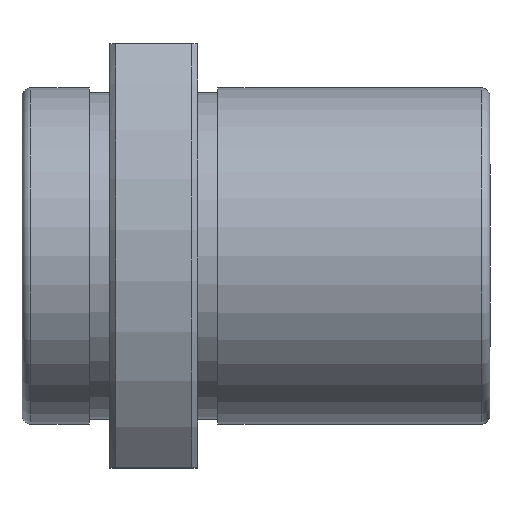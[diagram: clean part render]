
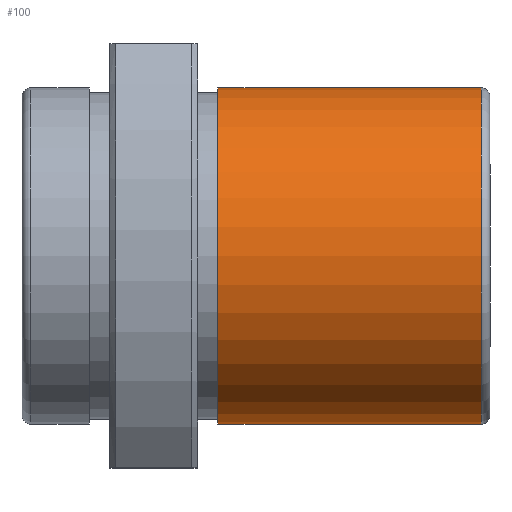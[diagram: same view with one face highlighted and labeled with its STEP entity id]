
A CAD part, top view. The second image highlights one B-rep face of the part: STEP entity #100.
In plain terms, the highlighted cylindrical face has radius 11.5 mm (diameter 23 mm), a full revolution.
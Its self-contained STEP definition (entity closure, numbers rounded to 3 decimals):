
#100=ADVANCED_FACE('',(#175,#176),#177,.T.);
#175=FACE_OUTER_BOUND('',#252,.T.);
#176=FACE_OUTER_BOUND('',#253,.T.);
#177=CYLINDRICAL_SURFACE('',#254,11.5);
#252=EDGE_LOOP('',(#410));
#253=EDGE_LOOP('',(#411));
#254=AXIS2_PLACEMENT_3D('',#412,#413,#414);
#410=ORIENTED_EDGE('',*,*,#469,.T.);
#411=ORIENTED_EDGE('',*,*,#426,.T.);
#412=CARTESIAN_POINT('',(20.0,0.,0.));
#413=DIRECTION('',(1.0,-0.0,0.));
#414=DIRECTION('',(0.0,-1.0,0.0));
#426=EDGE_CURVE('',#470,#470,#471,.F.);
#469=EDGE_CURVE('',#548,#548,#549,.T.);
#470=VERTEX_POINT('',#550);
#471=CIRCLE('',#551,11.5);
#548=VERTEX_POINT('',#660);
#549=CIRCLE('',#661,11.5);
#550=CARTESIAN_POINT('',(19.4,0.,-11.5));
#551=AXIS2_PLACEMENT_3D('',#662,#663,#664);
#660=CARTESIAN_POINT('',(1.4,0.,-11.5));
#661=AXIS2_PLACEMENT_3D('',#751,#752,#753);
#662=CARTESIAN_POINT('',(19.4,0.,0.));
#663=DIRECTION('',(1.0,0.0,0.));
#664=DIRECTION('',(0.,0.0,-1.0));
#751=CARTESIAN_POINT('',(1.4,0.,0.));
#752=DIRECTION('',(1.0,0.0,0.));
#753=DIRECTION('',(0.,0.0,-1.0));
